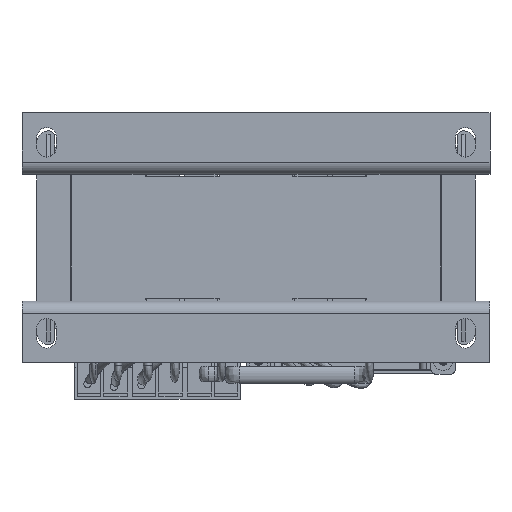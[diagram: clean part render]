
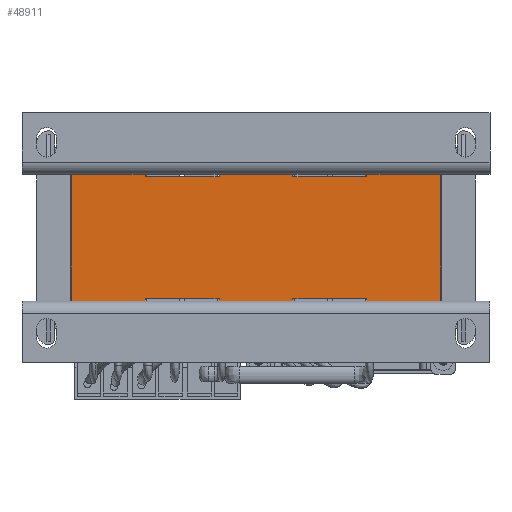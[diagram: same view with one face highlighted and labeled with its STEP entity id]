
A CAD part, front view. The second image highlights one B-rep face of the part: STEP entity #48911.
In plain terms, the highlighted planar face has unit normal (0, -1, 0).
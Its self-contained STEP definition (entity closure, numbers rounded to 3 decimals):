
#48744=CARTESIAN_POINT('',(122.646,-144.494,0.0));
#48745=DIRECTION('',(0.0,-1.0,0.0));
#48746=DIRECTION('',(0.0,0.0,-1.0));
#48747=AXIS2_PLACEMENT_3D('',#48744,#48745,#48746);
#48748=PLANE('',#48747);
#48749=CARTESIAN_POINT('',(92.646,-144.494,49.5));
#48750=VERTEX_POINT('',#48749);
#48751=CARTESIAN_POINT('',(62.646,-144.494,49.5));
#48752=VERTEX_POINT('',#48751);
#48753=CARTESIAN_POINT('',(92.646,-144.494,49.5));
#48754=DIRECTION('',(-1.0,0.0,0.0));
#48755=VECTOR('',#48754,30.);
#48756=LINE('',#48753,#48755);
#48757=EDGE_CURVE('',#48750,#48752,#48756,.T.);
#48758=ORIENTED_EDGE('',*,*,#48757,.T.);
#48759=CARTESIAN_POINT('',(62.646,-144.494,50.5));
#48760=VERTEX_POINT('',#48759);
#48761=CARTESIAN_POINT('',(62.646,-144.494,50.5));
#48762=DIRECTION('',(0.0,0.0,-1.0));
#48763=VECTOR('',#48762,1.0);
#48764=LINE('',#48761,#48763);
#48765=EDGE_CURVE('',#48760,#48752,#48764,.T.);
#48766=ORIENTED_EDGE('',*,*,#48765,.F.);
#48767=CARTESIAN_POINT('',(32.646,-144.494,50.5));
#48768=VERTEX_POINT('',#48767);
#48769=CARTESIAN_POINT('',(62.646,-144.494,50.5));
#48770=DIRECTION('',(-1.0,0.0,0.0));
#48771=VECTOR('',#48770,30.0);
#48772=LINE('',#48769,#48771);
#48773=EDGE_CURVE('',#48760,#48768,#48772,.T.);
#48774=ORIENTED_EDGE('',*,*,#48773,.T.);
#48775=CARTESIAN_POINT('',(32.646,-144.494,49.5));
#48776=VERTEX_POINT('',#48775);
#48777=CARTESIAN_POINT('',(32.646,-144.494,50.5));
#48778=DIRECTION('',(0.0,0.0,-1.0));
#48779=VECTOR('',#48778,1.0);
#48780=LINE('',#48777,#48779);
#48781=EDGE_CURVE('',#48768,#48776,#48780,.T.);
#48782=ORIENTED_EDGE('',*,*,#48781,.T.);
#48783=CARTESIAN_POINT('',(2.646,-144.494,49.5));
#48784=VERTEX_POINT('',#48783);
#48785=CARTESIAN_POINT('',(32.646,-144.494,49.5));
#48786=DIRECTION('',(-1.0,0.0,0.0));
#48787=VECTOR('',#48786,30.0);
#48788=LINE('',#48785,#48787);
#48789=EDGE_CURVE('',#48776,#48784,#48788,.T.);
#48790=ORIENTED_EDGE('',*,*,#48789,.T.);
#48791=CARTESIAN_POINT('',(2.646,-144.494,50.5));
#48792=VERTEX_POINT('',#48791);
#48793=CARTESIAN_POINT('',(2.646,-144.494,50.5));
#48794=DIRECTION('',(0.0,0.0,-1.0));
#48795=VECTOR('',#48794,1.0);
#48796=LINE('',#48793,#48795);
#48797=EDGE_CURVE('',#48792,#48784,#48796,.T.);
#48798=ORIENTED_EDGE('',*,*,#48797,.F.);
#48799=CARTESIAN_POINT('',(-27.354,-144.494,50.5));
#48800=VERTEX_POINT('',#48799);
#48801=CARTESIAN_POINT('',(2.646,-144.494,50.5));
#48802=DIRECTION('',(-1.0,0.0,0.0));
#48803=VECTOR('',#48802,30.);
#48804=LINE('',#48801,#48803);
#48805=EDGE_CURVE('',#48792,#48800,#48804,.T.);
#48806=ORIENTED_EDGE('',*,*,#48805,.T.);
#48807=CARTESIAN_POINT('',(-27.354,-144.494,-1.0));
#48808=VERTEX_POINT('',#48807);
#48809=CARTESIAN_POINT('',(-27.354,-144.494,-1.0));
#48810=DIRECTION('',(0.0,0.0,1.0));
#48811=VECTOR('',#48810,51.5);
#48812=LINE('',#48809,#48811);
#48813=EDGE_CURVE('',#48808,#48800,#48812,.T.);
#48814=ORIENTED_EDGE('',*,*,#48813,.F.);
#48815=CARTESIAN_POINT('',(2.646,-144.494,-1.0));
#48816=VERTEX_POINT('',#48815);
#48817=CARTESIAN_POINT('',(-27.354,-144.494,-1.0));
#48818=DIRECTION('',(1.0,0.0,0.0));
#48819=VECTOR('',#48818,30.);
#48820=LINE('',#48817,#48819);
#48821=EDGE_CURVE('',#48808,#48816,#48820,.T.);
#48822=ORIENTED_EDGE('',*,*,#48821,.T.);
#48823=CARTESIAN_POINT('',(2.646,-144.494,0.0));
#48824=VERTEX_POINT('',#48823);
#48825=CARTESIAN_POINT('',(2.646,-144.494,-1.0));
#48826=DIRECTION('',(0.0,0.0,1.0));
#48827=VECTOR('',#48826,1.0);
#48828=LINE('',#48825,#48827);
#48829=EDGE_CURVE('',#48816,#48824,#48828,.T.);
#48830=ORIENTED_EDGE('',*,*,#48829,.T.);
#48831=CARTESIAN_POINT('',(32.646,-144.494,0.0));
#48832=VERTEX_POINT('',#48831);
#48833=CARTESIAN_POINT('',(32.646,-144.494,0.0));
#48834=DIRECTION('',(-1.0,0.0,0.0));
#48835=VECTOR('',#48834,30.0);
#48836=LINE('',#48833,#48835);
#48837=EDGE_CURVE('',#48832,#48824,#48836,.T.);
#48838=ORIENTED_EDGE('',*,*,#48837,.F.);
#48839=CARTESIAN_POINT('',(32.646,-144.494,-1.0));
#48840=VERTEX_POINT('',#48839);
#48841=CARTESIAN_POINT('',(32.646,-144.494,-1.0));
#48842=DIRECTION('',(0.0,0.0,1.0));
#48843=VECTOR('',#48842,1.0);
#48844=LINE('',#48841,#48843);
#48845=EDGE_CURVE('',#48840,#48832,#48844,.T.);
#48846=ORIENTED_EDGE('',*,*,#48845,.F.);
#48847=CARTESIAN_POINT('',(62.646,-144.494,-1.0));
#48848=VERTEX_POINT('',#48847);
#48849=CARTESIAN_POINT('',(32.646,-144.494,-1.0));
#48850=DIRECTION('',(1.0,0.0,0.0));
#48851=VECTOR('',#48850,30.);
#48852=LINE('',#48849,#48851);
#48853=EDGE_CURVE('',#48840,#48848,#48852,.T.);
#48854=ORIENTED_EDGE('',*,*,#48853,.T.);
#48855=CARTESIAN_POINT('',(62.646,-144.494,0.0));
#48856=VERTEX_POINT('',#48855);
#48857=CARTESIAN_POINT('',(62.646,-144.494,-1.0));
#48858=DIRECTION('',(0.0,0.0,1.0));
#48859=VECTOR('',#48858,1.0);
#48860=LINE('',#48857,#48859);
#48861=EDGE_CURVE('',#48848,#48856,#48860,.T.);
#48862=ORIENTED_EDGE('',*,*,#48861,.T.);
#48863=CARTESIAN_POINT('',(92.646,-144.494,0.0));
#48864=VERTEX_POINT('',#48863);
#48865=CARTESIAN_POINT('',(92.646,-144.494,0.0));
#48866=DIRECTION('',(-1.0,0.0,0.0));
#48867=VECTOR('',#48866,30.0);
#48868=LINE('',#48865,#48867);
#48869=EDGE_CURVE('',#48864,#48856,#48868,.T.);
#48870=ORIENTED_EDGE('',*,*,#48869,.F.);
#48871=CARTESIAN_POINT('',(92.646,-144.494,-1.0));
#48872=VERTEX_POINT('',#48871);
#48873=CARTESIAN_POINT('',(92.646,-144.494,-1.0));
#48874=DIRECTION('',(0.0,0.0,1.0));
#48875=VECTOR('',#48874,1.0);
#48876=LINE('',#48873,#48875);
#48877=EDGE_CURVE('',#48872,#48864,#48876,.T.);
#48878=ORIENTED_EDGE('',*,*,#48877,.F.);
#48879=CARTESIAN_POINT('',(122.646,-144.494,-1.0));
#48880=VERTEX_POINT('',#48879);
#48881=CARTESIAN_POINT('',(92.646,-144.494,-1.0));
#48882=DIRECTION('',(1.0,0.0,0.0));
#48883=VECTOR('',#48882,30.0);
#48884=LINE('',#48881,#48883);
#48885=EDGE_CURVE('',#48872,#48880,#48884,.T.);
#48886=ORIENTED_EDGE('',*,*,#48885,.T.);
#48887=CARTESIAN_POINT('',(122.646,-144.494,50.5));
#48888=VERTEX_POINT('',#48887);
#48889=CARTESIAN_POINT('',(122.646,-144.494,-1.0));
#48890=DIRECTION('',(0.0,0.0,1.0));
#48891=VECTOR('',#48890,51.5);
#48892=LINE('',#48889,#48891);
#48893=EDGE_CURVE('',#48880,#48888,#48892,.T.);
#48894=ORIENTED_EDGE('',*,*,#48893,.T.);
#48895=CARTESIAN_POINT('',(92.646,-144.494,50.5));
#48896=VERTEX_POINT('',#48895);
#48897=CARTESIAN_POINT('',(122.646,-144.494,50.5));
#48898=DIRECTION('',(-1.0,0.0,0.0));
#48899=VECTOR('',#48898,30.0);
#48900=LINE('',#48897,#48899);
#48901=EDGE_CURVE('',#48888,#48896,#48900,.T.);
#48902=ORIENTED_EDGE('',*,*,#48901,.T.);
#48903=CARTESIAN_POINT('',(92.646,-144.494,50.5));
#48904=DIRECTION('',(0.0,0.0,-1.0));
#48905=VECTOR('',#48904,1.0);
#48906=LINE('',#48903,#48905);
#48907=EDGE_CURVE('',#48896,#48750,#48906,.T.);
#48908=ORIENTED_EDGE('',*,*,#48907,.T.);
#48909=EDGE_LOOP('',(#48758,#48766,#48774,#48782,#48790,#48798,#48806,#48814,#48822,#48830,#48838,#48846,#48854,#48862,#48870,#48878,#48886,#48894,#48902,#48908));
#48910=FACE_OUTER_BOUND('',#48909,.T.);
#48911=ADVANCED_FACE('',(#48910),#48748,.T.);
